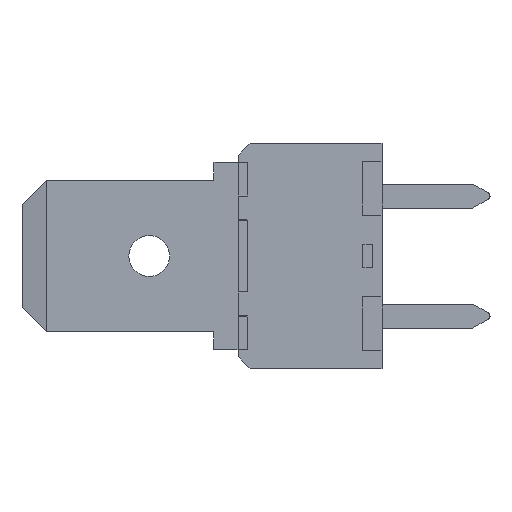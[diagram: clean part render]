
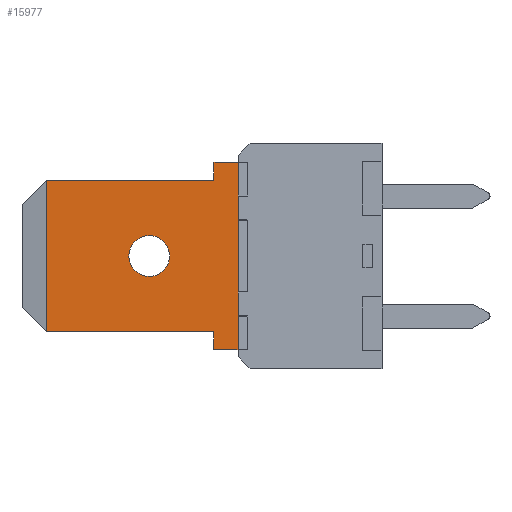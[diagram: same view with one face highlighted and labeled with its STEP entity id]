
A CAD part, left-side view. The second image highlights one B-rep face of the part: STEP entity #15977.
In plain terms, the highlighted planar face has unit normal (-1, 0, 0).
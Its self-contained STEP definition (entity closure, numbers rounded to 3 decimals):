
#2740 = CARTESIAN_POINT ( 'NONE',  ( 39.247, 3.359, -1.551 ) ) ;
#2922 = CARTESIAN_POINT ( 'NONE',  ( 39.247, 3.359, -7.851 ) ) ;
#3063 = DIRECTION ( 'NONE',  ( 0., 1., 0. ) ) ;
#3064 = VECTOR ( 'NONE', #3063, 1000. ) ;
#3065 = CARTESIAN_POINT ( 'NONE',  ( 39.247, 6.159, -1.551 ) ) ;
#3066 = LINE ( 'NONE', #3065, #3064 ) ;
#3072 = DIRECTION ( 'NONE',  ( 0., 0., -1. ) ) ;
#3073 = VECTOR ( 'NONE', #3072, 1000. ) ;
#3074 = CARTESIAN_POINT ( 'NONE',  ( 39.247, 10.359, -4.701 ) ) ;
#3075 = LINE ( 'NONE', #3074, #3073 ) ;
#9866 = CARTESIAN_POINT ( 'NONE',  ( 39.247, 6.059, -5.551 ) ) ;
#9893 = DIRECTION ( 'NONE',  ( 0., 0., 1. ) ) ;
#9894 = DIRECTION ( 'NONE',  ( 1., 0., 0. ) ) ;
#9895 = CARTESIAN_POINT ( 'NONE',  ( 39.247, 6.059, -4.701 ) ) ;
#9896 = AXIS2_PLACEMENT_3D ( 'NONE', #9895, #9894, #9893 ) ;
#9897 = CIRCLE ( 'NONE', #9896, 0.85 ) ;
#9959 = CARTESIAN_POINT ( 'NONE',  ( 39.247, 6.059, -3.851 ) ) ;
#11747 = CARTESIAN_POINT ( 'NONE',  ( 39.247, 10.359, -7.851 ) ) ;
#11805 = CARTESIAN_POINT ( 'NONE',  ( 39.247, 10.359, -1.551 ) ) ;
#13980 = DIRECTION ( 'NONE',  ( 0., 0., -1. ) ) ;
#13981 = VECTOR ( 'NONE', #13980, 1000. ) ;
#13982 = CARTESIAN_POINT ( 'NONE',  ( 39.247, 3.359, -4.701 ) ) ;
#13983 = LINE ( 'NONE', #13982, #13981 ) ;
#13989 = CARTESIAN_POINT ( 'NONE',  ( 39.247, 3.359, -0.801 ) ) ;
#14015 = DIRECTION ( 'NONE',  ( 0., 0., 1. ) ) ;
#14017 = DIRECTION ( 'NONE',  ( 1., 0., 0. ) ) ;
#14018 = CARTESIAN_POINT ( 'NONE',  ( 39.247, 6.059, -4.701 ) ) ;
#14019 = AXIS2_PLACEMENT_3D ( 'NONE', #14018, #14017, #14015 ) ;
#14020 = CIRCLE ( 'NONE', #14019, 0.85 ) ;
#14039 = DIRECTION ( 'NONE',  ( 0., -1., 0. ) ) ;
#14040 = VECTOR ( 'NONE', #14039, 1000. ) ;
#14041 = CARTESIAN_POINT ( 'NONE',  ( 39.247, 6.159, -7.851 ) ) ;
#14042 = LINE ( 'NONE', #14041, #14040 ) ;
#15229 = DIRECTION ( 'NONE',  ( 0., 0., 1. ) ) ;
#15230 = VECTOR ( 'NONE', #15229, 1000. ) ;
#15231 = CARTESIAN_POINT ( 'NONE',  ( 39.247, 1.959, -4.701 ) ) ;
#15232 = LINE ( 'NONE', #15231, #15230 ) ;
#15233 = CARTESIAN_POINT ( 'NONE',  ( 39.247, 1.959, -2.2 ) ) ;
#15404 = CARTESIAN_POINT ( 'NONE',  ( 39.247, 2.359, -8.601 ) ) ;
#15405 = DIRECTION ( 'NONE',  ( 0., 0., 1. ) ) ;
#15406 = VECTOR ( 'NONE', #15405, 1000. ) ;
#15407 = CARTESIAN_POINT ( 'NONE',  ( 39.247, 2.359, -8.601 ) ) ;
#15408 = LINE ( 'NONE', #15407, #15406 ) ;
#15486 = CARTESIAN_POINT ( 'NONE',  ( 39.247, 1.959, -7.2 ) ) ;
#15487 = CARTESIAN_POINT ( 'NONE',  ( 39.247, 1.959, -8.6 ) ) ;
#15488 = DIRECTION ( 'NONE',  ( 0., 1., 0. ) ) ;
#15489 = VECTOR ( 'NONE', #15488, 1000. ) ;
#15490 = CARTESIAN_POINT ( 'NONE',  ( 39.247, 2.659, -0.801 ) ) ;
#15491 = LINE ( 'NONE', #15490, #15489 ) ;
#15492 = CARTESIAN_POINT ( 'NONE',  ( 39.247, 1.959, -3.2 ) ) ;
#15493 = DIRECTION ( 'NONE',  ( 0., 0., 1. ) ) ;
#15494 = VECTOR ( 'NONE', #15493, 1000. ) ;
#15495 = CARTESIAN_POINT ( 'NONE',  ( 39.247, 1.959, -4.7 ) ) ;
#15496 = LINE ( 'NONE', #15495, #15494 ) ;
#15497 = DIRECTION ( 'NONE',  ( 0., -1., 0. ) ) ;
#15498 = VECTOR ( 'NONE', #15497, 1000. ) ;
#15499 = CARTESIAN_POINT ( 'NONE',  ( 39.247, 6.159, -8.6 ) ) ;
#15500 = LINE ( 'NONE', #15499, #15498 ) ;
#15501 = CARTESIAN_POINT ( 'NONE',  ( 39.247, 3.359, -8.601 ) ) ;
#15502 = DIRECTION ( 'NONE',  ( 0., -1., 0. ) ) ;
#15503 = VECTOR ( 'NONE', #15502, 1000. ) ;
#15504 = CARTESIAN_POINT ( 'NONE',  ( 39.247, 6.159, -8.601 ) ) ;
#15505 = LINE ( 'NONE', #15504, #15503 ) ;
#15507 = CARTESIAN_POINT ( 'NONE',  ( 39.247, 1.959, -6.2 ) ) ;
#15508 = CARTESIAN_POINT ( 'NONE',  ( 39.247, 2.359, -8.6 ) ) ;
#15509 = DIRECTION ( 'NONE',  ( 0., 0., -1. ) ) ;
#15510 = VECTOR ( 'NONE', #15509, 1000. ) ;
#15511 = CARTESIAN_POINT ( 'NONE',  ( 39.247, 3.359, -8.226 ) ) ;
#15512 = LINE ( 'NONE', #15511, #15510 ) ;
#15534 = DIRECTION ( 'NONE',  ( 0., 0., 1. ) ) ;
#15535 = VECTOR ( 'NONE', #15534, 1000. ) ;
#15536 = CARTESIAN_POINT ( 'NONE',  ( 39.247, 1.959, -4.701 ) ) ;
#15537 = LINE ( 'NONE', #15536, #15535 ) ;
#15538 = DIRECTION ( 'NONE',  ( 0., 0., 1. ) ) ;
#15539 = VECTOR ( 'NONE', #15538, 1000. ) ;
#15540 = CARTESIAN_POINT ( 'NONE',  ( 39.247, 1.959, -4.701 ) ) ;
#15541 = LINE ( 'NONE', #15540, #15539 ) ;
#15542 = CARTESIAN_POINT ( 'NONE',  ( 39.247, 1.959, -0.801 ) ) ;
#15543 = DIRECTION ( 'NONE',  ( 0., 0., 1. ) ) ;
#15544 = VECTOR ( 'NONE', #15543, 1000. ) ;
#15545 = CARTESIAN_POINT ( 'NONE',  ( 39.247, 1.959, -7.9 ) ) ;
#15546 = LINE ( 'NONE', #15545, #15544 ) ;
#15957 = EDGE_LOOP ( 'NONE', ( #44429, #44446, #44425, #44434, #44452, #44420, #44444, #44450, #44439, #44422, #44445, #44440, #44432, #44409 ) ) ;
#15967 = EDGE_LOOP ( 'NONE', ( #15968, #15973 ) ) ;
#15968 = ORIENTED_EDGE ( 'NONE', *, *, #28675, .T. ) ;
#15973 = ORIENTED_EDGE ( 'NONE', *, *, #30847, .T. ) ;
#15977 = ADVANCED_FACE ( 'NONE', ( #32612, #32611 ), #32610, .T. ) ;
#24595 = VERTEX_POINT ( 'NONE', #2740 ) ;
#24725 = VERTEX_POINT ( 'NONE', #2922 ) ;
#24791 = EDGE_CURVE ( 'NONE', #29674, #29670, #3075, .T. ) ;
#24800 = EDGE_CURVE ( 'NONE', #24595, #29674, #3066, .T. ) ;
#28651 = VERTEX_POINT ( 'NONE', #9866 ) ;
#28675 = EDGE_CURVE ( 'NONE', #28710, #28651, #9897, .T. ) ;
#28710 = VERTEX_POINT ( 'NONE', #9959 ) ;
#29670 = VERTEX_POINT ( 'NONE', #11747 ) ;
#29674 = VERTEX_POINT ( 'NONE', #11805 ) ;
#30825 = VERTEX_POINT ( 'NONE', #13989 ) ;
#30831 = EDGE_CURVE ( 'NONE', #30825, #24595, #13983, .T. ) ;
#30836 = EDGE_CURVE ( 'NONE', #29670, #24725, #14042, .T. ) ;
#30847 = EDGE_CURVE ( 'NONE', #28651, #28710, #14020, .T. ) ;
#32605 = DIRECTION ( 'NONE',  ( 0., 0., 1. ) ) ;
#32606 = DIRECTION ( 'NONE',  ( -1., 0., 0. ) ) ;
#32607 = CARTESIAN_POINT ( 'NONE',  ( 39.247, 1.959, -8.601 ) ) ;
#32609 = AXIS2_PLACEMENT_3D ( 'NONE', #32607, #32606, #32605 ) ;
#32610 = PLANE ( 'NONE',  #32609 ) ;
#32611 = FACE_OUTER_BOUND ( 'NONE', #15957, .T. ) ;
#32612 = FACE_BOUND ( 'NONE', #15967, .T. ) ;
#44268 = VERTEX_POINT ( 'NONE', #15233 ) ;
#44269 = EDGE_CURVE ( 'NONE', #44435, #44268, #15232, .T. ) ;
#44409 = ORIENTED_EDGE ( 'NONE', *, *, #44411, .T. ) ;
#44411 = EDGE_CURVE ( 'NONE', #44412, #44424, #15408, .T. ) ;
#44412 = VERTEX_POINT ( 'NONE', #15404 ) ;
#44420 = ORIENTED_EDGE ( 'NONE', *, *, #44447, .T. ) ;
#44422 = ORIENTED_EDGE ( 'NONE', *, *, #24791, .T. ) ;
#44423 = EDGE_CURVE ( 'NONE', #24725, #44430, #15512, .T. ) ;
#44424 = VERTEX_POINT ( 'NONE', #15508 ) ;
#44425 = ORIENTED_EDGE ( 'NONE', *, *, #44443, .T. ) ;
#44426 = VERTEX_POINT ( 'NONE', #15507 ) ;
#44427 = EDGE_CURVE ( 'NONE', #44430, #44412, #15505, .T. ) ;
#44429 = ORIENTED_EDGE ( 'NONE', *, *, #44431, .T. ) ;
#44430 = VERTEX_POINT ( 'NONE', #15501 ) ;
#44431 = EDGE_CURVE ( 'NONE', #44424, #44437, #15500, .T. ) ;
#44432 = ORIENTED_EDGE ( 'NONE', *, *, #44427, .T. ) ;
#44433 = EDGE_CURVE ( 'NONE', #44426, #44435, #15496, .T. ) ;
#44434 = ORIENTED_EDGE ( 'NONE', *, *, #44433, .T. ) ;
#44435 = VERTEX_POINT ( 'NONE', #15492 ) ;
#44436 = EDGE_CURVE ( 'NONE', #44442, #30825, #15491, .T. ) ;
#44437 = VERTEX_POINT ( 'NONE', #15487 ) ;
#44438 = VERTEX_POINT ( 'NONE', #15486 ) ;
#44439 = ORIENTED_EDGE ( 'NONE', *, *, #24800, .T. ) ;
#44440 = ORIENTED_EDGE ( 'NONE', *, *, #44423, .T. ) ;
#44441 = EDGE_CURVE ( 'NONE', #44437, #44438, #15546, .T. ) ;
#44442 = VERTEX_POINT ( 'NONE', #15542 ) ;
#44443 = EDGE_CURVE ( 'NONE', #44438, #44426, #15541, .T. ) ;
#44444 = ORIENTED_EDGE ( 'NONE', *, *, #44436, .T. ) ;
#44445 = ORIENTED_EDGE ( 'NONE', *, *, #30836, .T. ) ;
#44446 = ORIENTED_EDGE ( 'NONE', *, *, #44441, .T. ) ;
#44447 = EDGE_CURVE ( 'NONE', #44268, #44442, #15537, .T. ) ;
#44450 = ORIENTED_EDGE ( 'NONE', *, *, #30831, .T. ) ;
#44452 = ORIENTED_EDGE ( 'NONE', *, *, #44269, .T. ) ;
